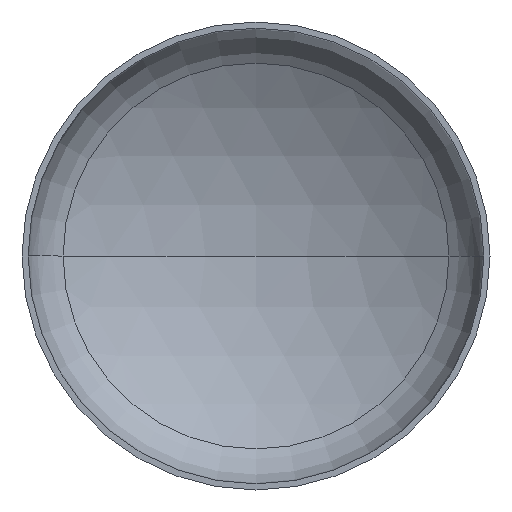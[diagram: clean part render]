
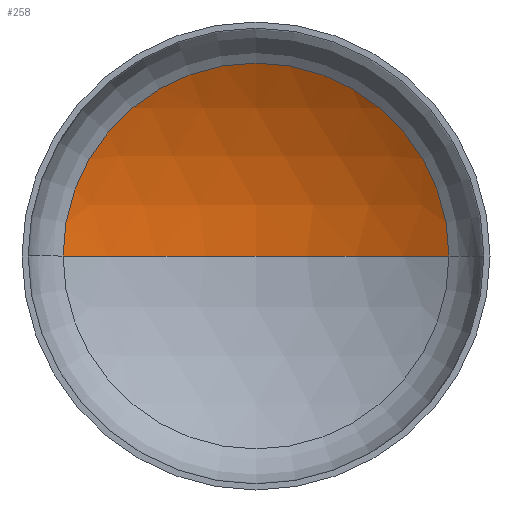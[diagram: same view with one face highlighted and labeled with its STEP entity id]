
A CAD part, front view. The second image highlights one B-rep face of the part: STEP entity #258.
In plain terms, the highlighted spherical face has radius 6000 mm.
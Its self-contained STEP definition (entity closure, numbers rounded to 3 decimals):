
#18 = AXIS2_PLACEMENT_3D ( 'NONE', #388, #166, #387 ) ;
#44 = ORIENTED_EDGE ( 'NONE', *, *, #84, .F. ) ;
#46 = AXIS2_PLACEMENT_3D ( 'NONE', #217, #214, #215 ) ;
#47 = VERTEX_POINT ( 'NONE', #59 ) ;
#49 = AXIS2_PLACEMENT_3D ( 'NONE', #189, #190, #301 ) ;
#51 = AXIS2_PLACEMENT_3D ( 'NONE', #307, #298, #296 ) ;
#59 = CARTESIAN_POINT ( 'NONE',  ( -3092.26, 1089.793, 0. ) ) ;
#80 = EDGE_CURVE ( 'NONE', #204, #47, #350, .T. ) ;
#81 = EDGE_CURVE ( 'NONE', #131, #204, #292, .T. ) ;
#84 = EDGE_CURVE ( 'NONE', #131, #47, #137, .T. ) ;
#107 = FACE_OUTER_BOUND ( 'NONE', #172, .T. ) ;
#131 = VERTEX_POINT ( 'NONE', #249 ) ;
#137 = CIRCLE ( 'NONE', #46, 6000. ) ;
#166 = DIRECTION ( 'NONE',  ( 0., 0., -1. ) ) ;
#172 = EDGE_LOOP ( 'NONE', ( #44, #319, #187 ) ) ;
#187 = ORIENTED_EDGE ( 'NONE', *, *, #80, .T. ) ;
#189 = CARTESIAN_POINT ( 'NONE',  ( 0., -4051.989, 0. ) ) ;
#190 = DIRECTION ( 'NONE',  ( 0., 0., -1. ) ) ;
#204 = VERTEX_POINT ( 'NONE', #233 ) ;
#214 = DIRECTION ( 'NONE',  ( 0., 0., 1. ) ) ;
#215 = DIRECTION ( 'NONE',  ( 1., 0., 0. ) ) ;
#217 = CARTESIAN_POINT ( 'NONE',  ( 0., -4051.989, 0. ) ) ;
#233 = CARTESIAN_POINT ( 'NONE',  ( 3092.26, 1089.793, 0. ) ) ;
#249 = CARTESIAN_POINT ( 'NONE',  ( 0., 1948.011, 0. ) ) ;
#258 = ADVANCED_FACE ( 'NONE', ( #107 ), #381, .F. ) ;
#292 = CIRCLE ( 'NONE', #49, 6000. ) ;
#296 = DIRECTION ( 'NONE',  ( 1., 0., 0. ) ) ;
#298 = DIRECTION ( 'NONE',  ( 0., -1., 0. ) ) ;
#301 = DIRECTION ( 'NONE',  ( -1., 0., 0. ) ) ;
#307 = CARTESIAN_POINT ( 'NONE',  ( 0., 1089.793, 0. ) ) ;
#319 = ORIENTED_EDGE ( 'NONE', *, *, #81, .T. ) ;
#350 = CIRCLE ( 'NONE', #51, 3092.26 ) ;
#381 = SPHERICAL_SURFACE ( 'NONE', #18, 6000. ) ;
#387 = DIRECTION ( 'NONE',  ( -1., 0., 0. ) ) ;
#388 = CARTESIAN_POINT ( 'NONE',  ( 0., -4051.989, 0. ) ) ;
